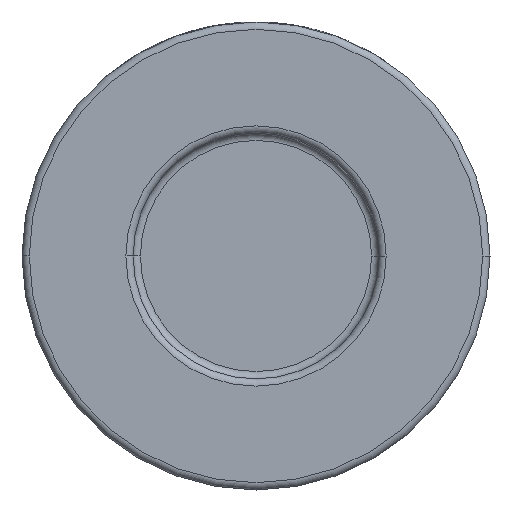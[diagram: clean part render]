
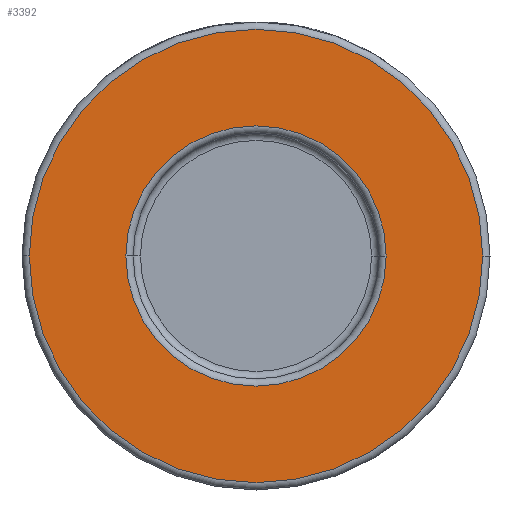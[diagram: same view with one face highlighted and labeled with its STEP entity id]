
A CAD part, front view. The second image highlights one B-rep face of the part: STEP entity #3392.
In plain terms, the highlighted planar face has unit normal (0, -1, 0).
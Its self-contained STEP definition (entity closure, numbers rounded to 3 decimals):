
#32 = ORIENTED_EDGE ( 'NONE', *, *, #398, .T. ) ;
#186 = AXIS2_PLACEMENT_3D ( 'NONE', #721, #2413, #4259 ) ;
#203 = EDGE_CURVE ( 'NONE', #2986, #521, #3189, .T. ) ;
#392 = ORIENTED_EDGE ( 'NONE', *, *, #2327, .T. ) ;
#398 = EDGE_CURVE ( 'NONE', #521, #2986, #2153, .T. ) ;
#521 = VERTEX_POINT ( 'NONE', #1400 ) ;
#685 = VERTEX_POINT ( 'NONE', #3700 ) ;
#717 = CARTESIAN_POINT ( 'NONE',  ( 0., -22., 0. ) ) ;
#721 = CARTESIAN_POINT ( 'NONE',  ( 0., -22., 0. ) ) ;
#900 = PLANE ( 'NONE',  #1879 ) ;
#959 = ORIENTED_EDGE ( 'NONE', *, *, #203, .T. ) ;
#1193 = DIRECTION ( 'NONE',  ( 0., -1., 0. ) ) ;
#1212 = AXIS2_PLACEMENT_3D ( 'NONE', #717, #3817, #2773 ) ;
#1400 = CARTESIAN_POINT ( 'NONE',  ( 17.8, -22., 0. ) ) ;
#1595 = AXIS2_PLACEMENT_3D ( 'NONE', #2797, #2774, #4164 ) ;
#1879 = AXIS2_PLACEMENT_3D ( 'NONE', #4377, #1193, #3660 ) ;
#2153 = CIRCLE ( 'NONE', #186, 17.8 ) ;
#2262 = DIRECTION ( 'NONE',  ( 1., 0., 0. ) ) ;
#2327 = EDGE_CURVE ( 'NONE', #3561, #685, #2675, .T. ) ;
#2413 = DIRECTION ( 'NONE',  ( 0., 1., 0. ) ) ;
#2486 = FACE_BOUND ( 'NONE', #4241, .T. ) ;
#2675 = CIRCLE ( 'NONE', #1212, 31. ) ;
#2773 = DIRECTION ( 'NONE',  ( 1., 0., 0. ) ) ;
#2774 = DIRECTION ( 'NONE',  ( 0., -1., 0. ) ) ;
#2797 = CARTESIAN_POINT ( 'NONE',  ( 0., -22., 0. ) ) ;
#2986 = VERTEX_POINT ( 'NONE', #4485 ) ;
#3035 = CARTESIAN_POINT ( 'NONE',  ( -31., -22., 0. ) ) ;
#3189 = CIRCLE ( 'NONE', #3269, 17.8 ) ;
#3268 = FACE_OUTER_BOUND ( 'NONE', #3830, .T. ) ;
#3269 = AXIS2_PLACEMENT_3D ( 'NONE', #4359, #4285, #2262 ) ;
#3392 = ADVANCED_FACE ( 'NONE', ( #2486, #3268 ), #900, .T. ) ;
#3490 = CIRCLE ( 'NONE', #1595, 31. ) ;
#3561 = VERTEX_POINT ( 'NONE', #3035 ) ;
#3660 = DIRECTION ( 'NONE',  ( 1., 0., 0. ) ) ;
#3700 = CARTESIAN_POINT ( 'NONE',  ( 31., -22., 0. ) ) ;
#3817 = DIRECTION ( 'NONE',  ( 0., -1., 0. ) ) ;
#3830 = EDGE_LOOP ( 'NONE', ( #4046, #392 ) ) ;
#4046 = ORIENTED_EDGE ( 'NONE', *, *, #4221, .T. ) ;
#4164 = DIRECTION ( 'NONE',  ( 1., 0., 0. ) ) ;
#4221 = EDGE_CURVE ( 'NONE', #685, #3561, #3490, .T. ) ;
#4241 = EDGE_LOOP ( 'NONE', ( #32, #959 ) ) ;
#4259 = DIRECTION ( 'NONE',  ( 1., 0., 0. ) ) ;
#4285 = DIRECTION ( 'NONE',  ( 0., 1., 0. ) ) ;
#4359 = CARTESIAN_POINT ( 'NONE',  ( 0., -22., 0. ) ) ;
#4377 = CARTESIAN_POINT ( 'NONE',  ( 32., -22., 0. ) ) ;
#4485 = CARTESIAN_POINT ( 'NONE',  ( -17.8, -22., 0. ) ) ;
